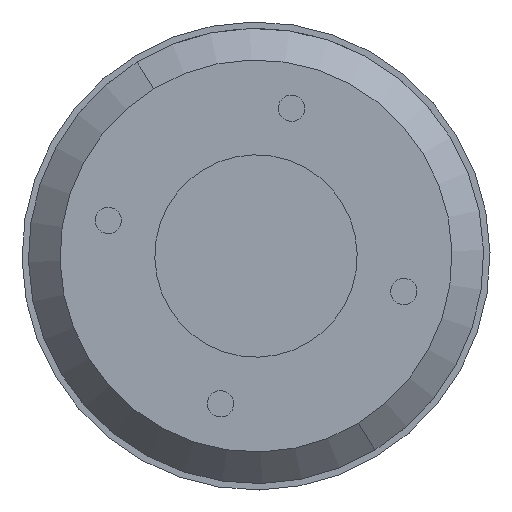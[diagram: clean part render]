
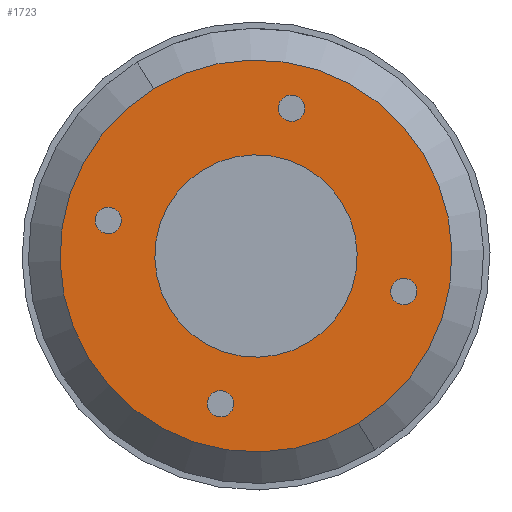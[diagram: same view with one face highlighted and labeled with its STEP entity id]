
A CAD part, front view. The second image highlights one B-rep face of the part: STEP entity #1723.
In plain terms, the highlighted planar face has unit normal (0, -1, 0).
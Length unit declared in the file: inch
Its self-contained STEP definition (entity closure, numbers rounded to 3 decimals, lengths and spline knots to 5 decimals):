
#11 = DIRECTION ( 'NONE',  ( 0., -1., 0. ) ) ;
#47 = CARTESIAN_POINT ( 'NONE',  ( 0.50602, -0.372, -0.82609 ) ) ;
#90 = EDGE_LOOP ( 'NONE', ( #1259, #1127 ) ) ;
#104 = CARTESIAN_POINT ( 'NONE',  ( 0., -0.372, 0. ) ) ;
#116 = DIRECTION ( 'NONE',  ( 0.522, 0., -0.853 ) ) ;
#202 = CIRCLE ( 'NONE', #436, 0.065 ) ;
#253 = EDGE_CURVE ( 'NONE', #1236, #1517, #1806, .T. ) ;
#316 = DIRECTION ( 'NONE',  ( 0., -1., 0. ) ) ;
#389 = EDGE_CURVE ( 'NONE', #1600, #1726, #834, .T. ) ;
#397 = EDGE_CURVE ( 'NONE', #500, #1694, #731, .T. ) ;
#410 = DIRECTION ( 'NONE',  ( 0., -1., 0. ) ) ;
#412 = CIRCLE ( 'NONE', #1807, 0.5 ) ;
#426 = CARTESIAN_POINT ( 'NONE',  ( 0.17566, -0.372, 0.7303 ) ) ;
#436 = AXIS2_PLACEMENT_3D ( 'NONE', #1452, #3383, #1191 ) ;
#468 = CARTESIAN_POINT ( 'NONE',  ( 0.20961, -0.372, 0.67487 ) ) ;
#477 = CARTESIAN_POINT ( 'NONE',  ( 0.42637, -0.372, 0.26117 ) ) ;
#500 = VERTEX_POINT ( 'NONE', #2622 ) ;
#501 = AXIS2_PLACEMENT_3D ( 'NONE', #3083, #1116, #541 ) ;
#541 = DIRECTION ( 'NONE',  ( 0.522, 0., -0.853 ) ) ;
#559 = CARTESIAN_POINT ( 'NONE',  ( -0.26117, -0.372, 0.42637 ) ) ;
#603 = CARTESIAN_POINT ( 'NONE',  ( -0.20926, -0.372, -0.67495 ) ) ;
#683 = ORIENTED_EDGE ( 'NONE', *, *, #389, .F. ) ;
#703 = EDGE_CURVE ( 'NONE', #1726, #1600, #953, .T. ) ;
#714 = VERTEX_POINT ( 'NONE', #3183 ) ;
#731 = CIRCLE ( 'NONE', #2433, 0.065 ) ;
#777 = EDGE_LOOP ( 'NONE', ( #3090, #932 ) ) ;
#786 = CARTESIAN_POINT ( 'NONE',  ( -0.17531, -0.372, -0.73038 ) ) ;
#822 = AXIS2_PLACEMENT_3D ( 'NONE', #1226, #3144, #1494 ) ;
#830 = CIRCLE ( 'NONE', #1302, 0.065 ) ;
#832 = ORIENTED_EDGE ( 'NONE', *, *, #2297, .F. ) ;
#834 = CIRCLE ( 'NONE', #2264, 0.065 ) ;
#867 = CARTESIAN_POINT ( 'NONE',  ( 0., -0.372, 0. ) ) ;
#878 = CARTESIAN_POINT ( 'NONE',  ( 0.17566, -0.372, 0.7303 ) ) ;
#908 = EDGE_CURVE ( 'NONE', #3210, #714, #202, .T. ) ;
#932 = ORIENTED_EDGE ( 'NONE', *, *, #397, .F. ) ;
#953 = CIRCLE ( 'NONE', #1267, 0.065 ) ;
#957 = CARTESIAN_POINT ( 'NONE',  ( 0., -0.372, 0. ) ) ;
#1005 = FACE_BOUND ( 'NONE', #2820, .T. ) ;
#1105 = FACE_BOUND ( 'NONE', #777, .T. ) ;
#1116 = DIRECTION ( 'NONE',  ( 0., -1., 0. ) ) ;
#1127 = ORIENTED_EDGE ( 'NONE', *, *, #253, .F. ) ;
#1128 = AXIS2_PLACEMENT_3D ( 'NONE', #867, #2804, #1152 ) ;
#1152 = DIRECTION ( 'NONE',  ( 0.522, 0., -0.853 ) ) ;
#1162 = DIRECTION ( 'NONE',  ( 0.522, 0., -0.853 ) ) ;
#1181 = EDGE_LOOP ( 'NONE', ( #683, #1499 ) ) ;
#1191 = DIRECTION ( 'NONE',  ( 0.522, 0., -0.853 ) ) ;
#1226 = CARTESIAN_POINT ( 'NONE',  ( -0.17531, -0.372, -0.73038 ) ) ;
#1236 = VERTEX_POINT ( 'NONE', #559 ) ;
#1243 = DIRECTION ( 'NONE',  ( 0.522, 0., -0.853 ) ) ;
#1259 = ORIENTED_EDGE ( 'NONE', *, *, #2884, .F. ) ;
#1266 = ORIENTED_EDGE ( 'NONE', *, *, #1403, .F. ) ;
#1267 = AXIS2_PLACEMENT_3D ( 'NONE', #2116, #1291, #2369 ) ;
#1291 = DIRECTION ( 'NONE',  ( 0., -1., 0. ) ) ;
#1302 = AXIS2_PLACEMENT_3D ( 'NONE', #1991, #316, #2257 ) ;
#1310 = EDGE_LOOP ( 'NONE', ( #3388, #1266 ) ) ;
#1331 = DIRECTION ( 'NONE',  ( 0., -1., 0. ) ) ;
#1355 = DIRECTION ( 'NONE',  ( 0.522, 0., -0.853 ) ) ;
#1361 = AXIS2_PLACEMENT_3D ( 'NONE', #878, #2812, #1162 ) ;
#1364 = ORIENTED_EDGE ( 'NONE', *, *, #908, .F. ) ;
#1403 = EDGE_CURVE ( 'NONE', #3159, #3271, #2286, .T. ) ;
#1452 = CARTESIAN_POINT ( 'NONE',  ( 0.73051, -0.372, -0.17552 ) ) ;
#1494 = DIRECTION ( 'NONE',  ( 0.522, 0., -0.853 ) ) ;
#1499 = ORIENTED_EDGE ( 'NONE', *, *, #703, .F. ) ;
#1517 = VERTEX_POINT ( 'NONE', #3536 ) ;
#1536 = DIRECTION ( 'NONE',  ( 0., -1., 0. ) ) ;
#1573 = EDGE_CURVE ( 'NONE', #3107, #2246, #2916, .T. ) ;
#1600 = VERTEX_POINT ( 'NONE', #1931 ) ;
#1672 = CARTESIAN_POINT ( 'NONE',  ( -0.73017, -0.372, 0.17544 ) ) ;
#1674 = FACE_OUTER_BOUND ( 'NONE', #2942, .T. ) ;
#1694 = VERTEX_POINT ( 'NONE', #468 ) ;
#1723 = ADVANCED_FACE ( 'NONE', ( #1005, #1105, #3296, #1932, #2393, #1674 ), #2978, .T. ) ;
#1726 = VERTEX_POINT ( 'NONE', #3523 ) ;
#1798 = ORIENTED_EDGE ( 'NONE', *, *, #2273, .T. ) ;
#1806 = CIRCLE ( 'NONE', #3427, 0.5 ) ;
#1807 = AXIS2_PLACEMENT_3D ( 'NONE', #957, #2896, #1243 ) ;
#1888 = DIRECTION ( 'NONE',  ( 0.522, 0., -0.853 ) ) ;
#1931 = CARTESIAN_POINT ( 'NONE',  ( -0.69621, -0.372, 0.12001 ) ) ;
#1932 = FACE_BOUND ( 'NONE', #1181, .T. ) ;
#1968 = EDGE_CURVE ( 'NONE', #3271, #3159, #3423, .T. ) ;
#1991 = CARTESIAN_POINT ( 'NONE',  ( 0.73051, -0.372, -0.17552 ) ) ;
#2018 = CARTESIAN_POINT ( 'NONE',  ( 0.76446, -0.372, -0.23095 ) ) ;
#2116 = CARTESIAN_POINT ( 'NONE',  ( -0.73017, -0.372, 0.17544 ) ) ;
#2149 = DIRECTION ( 'NONE',  ( 0., -1., 0. ) ) ;
#2246 = VERTEX_POINT ( 'NONE', #3048 ) ;
#2257 = DIRECTION ( 'NONE',  ( 0.522, 0., -0.853 ) ) ;
#2264 = AXIS2_PLACEMENT_3D ( 'NONE', #1672, #11, #3553 ) ;
#2273 = EDGE_CURVE ( 'NONE', #2246, #3107, #2939, .T. ) ;
#2286 = CIRCLE ( 'NONE', #2431, 0.065 ) ;
#2297 = EDGE_CURVE ( 'NONE', #714, #3210, #830, .T. ) ;
#2369 = DIRECTION ( 'NONE',  ( 0.522, 0., -0.853 ) ) ;
#2393 = FACE_BOUND ( 'NONE', #90, .T. ) ;
#2431 = AXIS2_PLACEMENT_3D ( 'NONE', #786, #2149, #1355 ) ;
#2433 = AXIS2_PLACEMENT_3D ( 'NONE', #426, #1536, #1888 ) ;
#2576 = CARTESIAN_POINT ( 'NONE',  ( -0.14136, -0.372, -0.78581 ) ) ;
#2622 = CARTESIAN_POINT ( 'NONE',  ( 0.1417, -0.372, 0.78572 ) ) ;
#2804 = DIRECTION ( 'NONE',  ( 0., -1., 0. ) ) ;
#2812 = DIRECTION ( 'NONE',  ( 0., -1., 0. ) ) ;
#2820 = EDGE_LOOP ( 'NONE', ( #1364, #832 ) ) ;
#2884 = EDGE_CURVE ( 'NONE', #1517, #1236, #412, .T. ) ;
#2896 = DIRECTION ( 'NONE',  ( 0., -1., 0. ) ) ;
#2916 = CIRCLE ( 'NONE', #501, 0.96875 ) ;
#2923 = AXIS2_PLACEMENT_3D ( 'NONE', #477, #1331, #3247 ) ;
#2939 = CIRCLE ( 'NONE', #1128, 0.96875 ) ;
#2942 = EDGE_LOOP ( 'NONE', ( #1798, #3397 ) ) ;
#2978 = PLANE ( 'NONE',  #2923 ) ;
#3048 = CARTESIAN_POINT ( 'NONE',  ( -0.50602, -0.372, 0.82609 ) ) ;
#3083 = CARTESIAN_POINT ( 'NONE',  ( 0., -0.372, 0. ) ) ;
#3090 = ORIENTED_EDGE ( 'NONE', *, *, #3128, .F. ) ;
#3107 = VERTEX_POINT ( 'NONE', #47 ) ;
#3128 = EDGE_CURVE ( 'NONE', #1694, #500, #3396, .T. ) ;
#3144 = DIRECTION ( 'NONE',  ( 0., -1., 0. ) ) ;
#3159 = VERTEX_POINT ( 'NONE', #603 ) ;
#3183 = CARTESIAN_POINT ( 'NONE',  ( 0.69656, -0.372, -0.1201 ) ) ;
#3210 = VERTEX_POINT ( 'NONE', #2018 ) ;
#3247 = DIRECTION ( 'NONE',  ( 0.522, 0., -0.853 ) ) ;
#3271 = VERTEX_POINT ( 'NONE', #2576 ) ;
#3296 = FACE_BOUND ( 'NONE', #1310, .T. ) ;
#3383 = DIRECTION ( 'NONE',  ( 0., -1., 0. ) ) ;
#3388 = ORIENTED_EDGE ( 'NONE', *, *, #1968, .F. ) ;
#3396 = CIRCLE ( 'NONE', #1361, 0.065 ) ;
#3397 = ORIENTED_EDGE ( 'NONE', *, *, #1573, .T. ) ;
#3423 = CIRCLE ( 'NONE', #822, 0.065 ) ;
#3427 = AXIS2_PLACEMENT_3D ( 'NONE', #104, #410, #116 ) ;
#3523 = CARTESIAN_POINT ( 'NONE',  ( -0.76412, -0.372, 0.23087 ) ) ;
#3536 = CARTESIAN_POINT ( 'NONE',  ( 0.26117, -0.372, -0.42637 ) ) ;
#3553 = DIRECTION ( 'NONE',  ( 0.522, 0., -0.853 ) ) ;
